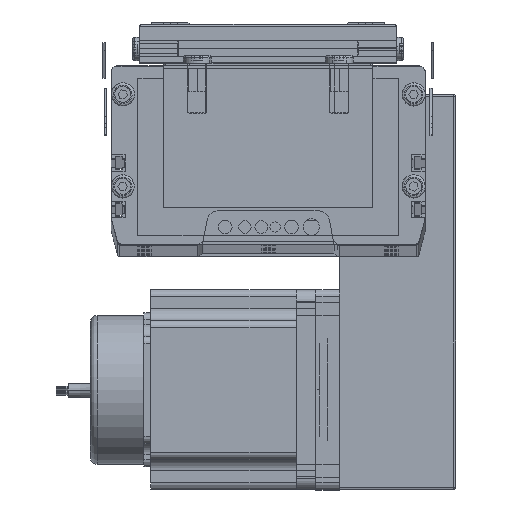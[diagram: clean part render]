
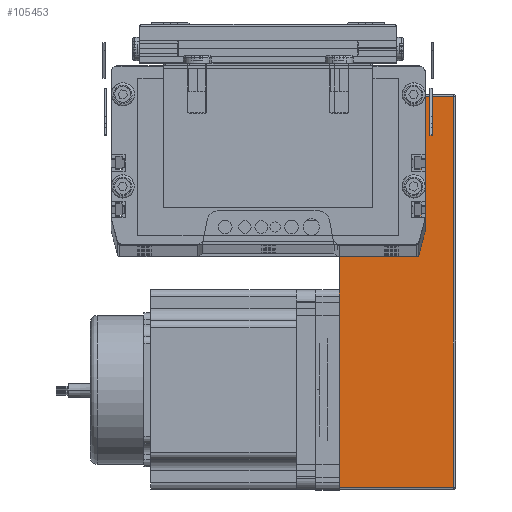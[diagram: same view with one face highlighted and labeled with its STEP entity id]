
A CAD part, top view. The second image highlights one B-rep face of the part: STEP entity #105453.
In plain terms, the highlighted planar face has unit normal (0, 0, 1) as drawn and (0, 1, 0) by its records, which use the part's own axes.
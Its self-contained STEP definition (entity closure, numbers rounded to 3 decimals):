
#8980 = PLANE ( 'NONE',  #8984 ) ;
#8984 = AXIS2_PLACEMENT_3D ( 'NONE', #9057, #9056, #9055 ) ;
#9006 = FACE_OUTER_BOUND ( 'NONE', #105449, .T. ) ;
#9023 = CARTESIAN_POINT ( 'NONE',  ( 10.902, 70., 0. ) ) ;
#9037 = DIRECTION ( 'NONE',  ( 1., 0., 0. ) ) ;
#9038 = VECTOR ( 'NONE', #9037, 1000. ) ;
#9039 = CARTESIAN_POINT ( 'NONE',  ( 0., 70., 0. ) ) ;
#9040 = LINE ( 'NONE', #9039, #9038 ) ;
#9043 = VECTOR ( 'NONE', #9058, 1000. ) ;
#9044 = CARTESIAN_POINT ( 'NONE',  ( 0., 70., 0. ) ) ;
#9048 = LINE ( 'NONE', #9044, #9043 ) ;
#9055 = DIRECTION ( 'NONE',  ( 0., 0., -1. ) ) ;
#9056 = DIRECTION ( 'NONE',  ( 0., -1., 0. ) ) ;
#9057 = CARTESIAN_POINT ( 'NONE',  ( 0., 70., 50. ) ) ;
#9058 = DIRECTION ( 'NONE',  ( 1., 0., 0. ) ) ;
#9069 = CARTESIAN_POINT ( 'NONE',  ( 169., 70., 0. ) ) ;
#9070 = DIRECTION ( 'NONE',  ( 1., 0., 0. ) ) ;
#9071 = VECTOR ( 'NONE', #9070, 1000. ) ;
#9072 = CARTESIAN_POINT ( 'NONE',  ( 0., 70., 0. ) ) ;
#9076 = LINE ( 'NONE', #9072, #9071 ) ;
#9078 = CARTESIAN_POINT ( 'NONE',  ( 74.961, 70., 0. ) ) ;
#9086 = CARTESIAN_POINT ( 'NONE',  ( 85.9, 70., 0. ) ) ;
#9088 = CARTESIAN_POINT ( 'NONE',  ( 80.439, 70., 0. ) ) ;
#9107 = DIRECTION ( 'NONE',  ( -1., 0., 0. ) ) ;
#9108 = VECTOR ( 'NONE', #9107, 1000. ) ;
#9109 = CARTESIAN_POINT ( 'NONE',  ( 0., 70., 0. ) ) ;
#9119 = LINE ( 'NONE', #9109, #9108 ) ;
#12327 = DIRECTION ( 'NONE',  ( 1., 0., 0. ) ) ;
#12328 = VECTOR ( 'NONE', #12327, 1000. ) ;
#12330 = CARTESIAN_POINT ( 'NONE',  ( 0., 70., 49. ) ) ;
#12333 = DIRECTION ( 'NONE',  ( 0., 0., 1. ) ) ;
#12334 = VECTOR ( 'NONE', #12333, 1000. ) ;
#12336 = LINE ( 'NONE', #12330, #12328 ) ;
#12338 = CARTESIAN_POINT ( 'NONE',  ( 1., 70., 50. ) ) ;
#12339 = LINE ( 'NONE', #12338, #12334 ) ;
#12345 = CARTESIAN_POINT ( 'NONE',  ( 1., 70., 0. ) ) ;
#75256 = LINE ( 'NONE', #75357, #75356 ) ;
#75260 = CARTESIAN_POINT ( 'NONE',  ( 1., 70., 49. ) ) ;
#75262 = CARTESIAN_POINT ( 'NONE',  ( 5.418, 70., 0. ) ) ;
#75274 = DIRECTION ( 'NONE',  ( 1., 0., 0. ) ) ;
#75275 = VECTOR ( 'NONE', #75274, 1000. ) ;
#75277 = CARTESIAN_POINT ( 'NONE',  ( 0., 70., 0. ) ) ;
#75287 = LINE ( 'NONE', #75277, #75275 ) ;
#75290 = DIRECTION ( 'NONE',  ( 0., 0., -1. ) ) ;
#75291 = VECTOR ( 'NONE', #75290, 1000. ) ;
#75293 = CARTESIAN_POINT ( 'NONE',  ( 169., 70., 50. ) ) ;
#75294 = LINE ( 'NONE', #75293, #75291 ) ;
#75301 = CARTESIAN_POINT ( 'NONE',  ( 169., 70., 49. ) ) ;
#75355 = DIRECTION ( 'NONE',  ( 1., 0., 0. ) ) ;
#75356 = VECTOR ( 'NONE', #75355, 1000. ) ;
#75357 = CARTESIAN_POINT ( 'NONE',  ( 0., 70., 0. ) ) ;
#105449 = EDGE_LOOP ( 'NONE', ( #105454, #105499, #105476, #105482, #106115, #106101, #106109, #106111, #106107 ) ) ;
#105451 = VERTEX_POINT ( 'NONE', #9023 ) ;
#105453 = ADVANCED_FACE ( 'NONE', ( #9006 ), #8980, .F. ) ;
#105454 = ORIENTED_EDGE ( 'NONE', *, *, #105533, .T. ) ;
#105476 = ORIENTED_EDGE ( 'NONE', *, *, #105478, .F. ) ;
#105478 = EDGE_CURVE ( 'NONE', #105507, #105510, #9048, .T. ) ;
#105480 = EDGE_CURVE ( 'NONE', #105451, #105507, #9040, .T. ) ;
#105482 = ORIENTED_EDGE ( 'NONE', *, *, #105480, .F. ) ;
#105499 = ORIENTED_EDGE ( 'NONE', *, *, #105508, .F. ) ;
#105507 = VERTEX_POINT ( 'NONE', #9078 ) ;
#105508 = EDGE_CURVE ( 'NONE', #105510, #105529, #9076, .T. ) ;
#105510 = VERTEX_POINT ( 'NONE', #9088 ) ;
#105520 = VERTEX_POINT ( 'NONE', #9069 ) ;
#105529 = VERTEX_POINT ( 'NONE', #9086 ) ;
#105533 = EDGE_CURVE ( 'NONE', #105520, #105529, #9119, .T. ) ;
#106101 = ORIENTED_EDGE ( 'NONE', *, *, #106116, .F. ) ;
#106102 = EDGE_CURVE ( 'NONE', #106106, #106119, #12339, .T. ) ;
#106106 = VERTEX_POINT ( 'NONE', #12345 ) ;
#106107 = ORIENTED_EDGE ( 'NONE', *, *, #106112, .T. ) ;
#106109 = ORIENTED_EDGE ( 'NONE', *, *, #106102, .T. ) ;
#106110 = EDGE_CURVE ( 'NONE', #106119, #106114, #12336, .T. ) ;
#106111 = ORIENTED_EDGE ( 'NONE', *, *, #106110, .T. ) ;
#106112 = EDGE_CURVE ( 'NONE', #106114, #105520, #75294, .T. ) ;
#106114 = VERTEX_POINT ( 'NONE', #75301 ) ;
#106115 = ORIENTED_EDGE ( 'NONE', *, *, #106121, .F. ) ;
#106116 = EDGE_CURVE ( 'NONE', #106106, #106123, #75287, .T. ) ;
#106119 = VERTEX_POINT ( 'NONE', #75260 ) ;
#106121 = EDGE_CURVE ( 'NONE', #106123, #105451, #75256, .T. ) ;
#106123 = VERTEX_POINT ( 'NONE', #75262 ) ;
